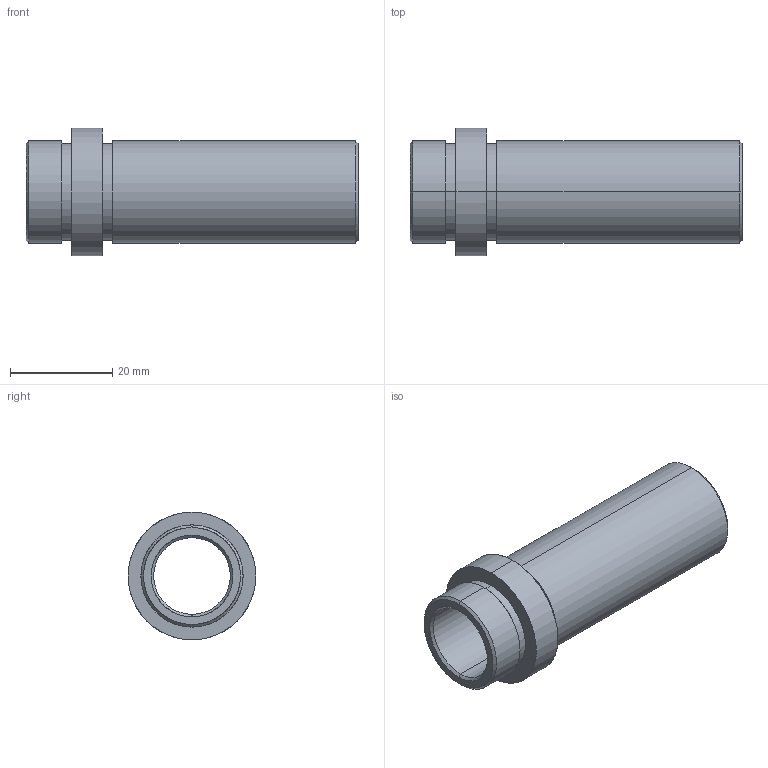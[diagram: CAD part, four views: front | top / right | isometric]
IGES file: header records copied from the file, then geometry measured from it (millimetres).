
Start section: SolidWorks IGES file using analytic representation for surfaces
Global section: file name: C:\Users\Dell\Desktop\deltakont\kontrol edilecekler\D21\Ø15\D21_15x56.IGS; native system: SolidWorks 2010; preprocessor: SolidWorks 2010; author: Dell; date: 111228.212443; units: millimetre
Bounding box: 65 x 25 x 25 mm (x, y, z)
Surface area: 7915.2 mm2 (no closed solid volume)
Topology: 0 solids, 0 shells, 26 faces, 464 edges, 464 vertices
Faces by surface type: revolution 20, bspline 6
